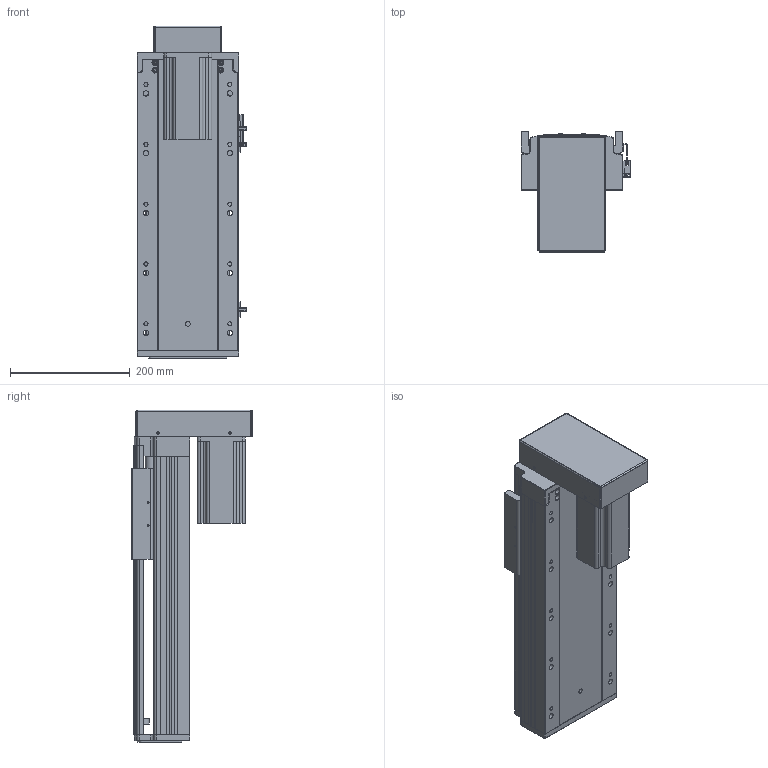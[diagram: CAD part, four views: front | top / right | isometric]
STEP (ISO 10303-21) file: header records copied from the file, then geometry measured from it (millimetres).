
FILE_DESCRIPTION (( 'STEP AP203' ), '1' );
FILE_NAME ('RY170-L2510-300-BK.SLDASM_250.step', '2021-03-12T08:57:35', ( '盈信电脑' ), ( '东莞市道滘镇水果街19号' ), 'SwSTEP 2.0', 'SolidWorks 2012', '' );
FILE_SCHEMA (( 'CONFIG_CONTROL_DESIGN' ));
Products named in the file (14): RY170-狟殏750W萇儂傷; RY170-L2510-300-BK.SLDASM_250; RY170转折电机端支撑座(7004); RY170狟殏萇儂欶; 怢湛750W萇儂ㄗ80遺ㄘ; RY170-狟殏萇儂假蚾啣; 覜茼ん672; 滅袉蝶18-20; RY170外置感应片(200共用）; 滅袉蝶18-10; RY170-300倰第裔啣-BK_250; RY170綴裔啣; 改造-RY170铝滑块25丝杆螺母; RY170-300倰第菁釱-BK_250
Assembly tree (15 placements, depth 3):
  RY170-L2510-300-BK.SLDASM_250
    RY170-300倰第菁釱-BK_250
    改造-RY170铝滑块25丝杆螺母
    RY170-300倰第裔啣-BK_250
    RY170綴裔啣
    覜茼ん672  x3
    RY170外置感应片(200共用）
    滅袉蝶18-20
    滅袉蝶18-10
    RY170转折电机端支撑座(7004)
    RY170-狟殏750W萇儂傷
      RY170-狟殏萇儂假蚾啣
      RY170狟殏萇儂欶
      怢湛750W萇儂ㄗ80遺ㄘ
Bounding box: 183.7 x 200.8 x 554.5 mm (x, y, z)
Volume: 4064060.5 mm3; surface area: 1129365.5 mm2
Topology: 14 solids, 14 shells, 2004 faces, 5713 edges, 3692 vertices
Faces by surface type: plane 1076, cylinder 775, cone 134, bspline 19
Entity records: 64042 total; most frequent: CARTESIAN_POINT 14977, ORIENTED_EDGE 10250, DIRECTION 9493, EDGE_CURVE 5125, VERTEX_POINT 3372, LINE 3281, VECTOR 3281, AXIS2_PLACEMENT_3D 3106
